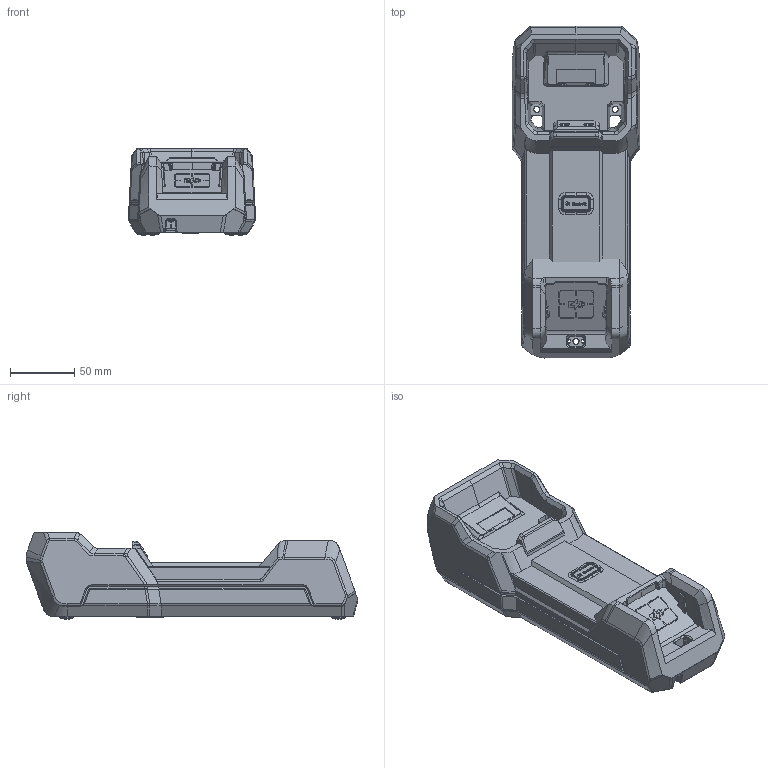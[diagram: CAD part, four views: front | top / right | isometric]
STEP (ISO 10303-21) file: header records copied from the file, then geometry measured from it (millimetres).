
FILE_DESCRIPTION((''),'2;1');
FILE_NAME('DE-12-005559','2025-05-30T18:00:32',('qinyangfan'),(''),'CREO PARAMETRIC BY PTC INC, 2020044','CREO PARAMETRIC BY PTC INC, 2020044','');
FILE_SCHEMA(('CONFIG_CONTROL_DESIGN'));
Products named in the file (1): DE-12-005559
Bounding box: 98.97 x 257.91 x 67.59 mm (x, y, z)
Volume: 380213 mm3; surface area: 252578.4 mm2
Topology: 2 solids, 12 shells, 4353 faces, 11922 edges, 7673 vertices
Faces by surface type: plane 2169, cylinder 923, bspline 661, extrusion 242, cone 238, torus 100, revolution 12, sphere 8
Entity records: 188937 total; most frequent: CARTESIAN_POINT 87041, ORIENTED_EDGE 23800, DIRECTION 16920, EDGE_CURVE 11902, VERTEX_POINT 7672, VECTOR 6896, LINE 6654, AXIS2_PLACEMENT_3D 5006
